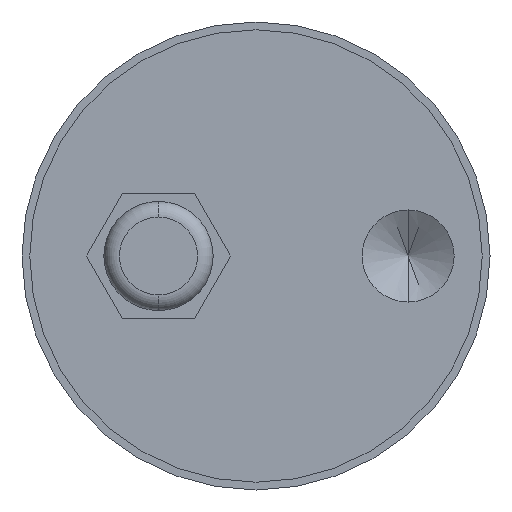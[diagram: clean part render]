
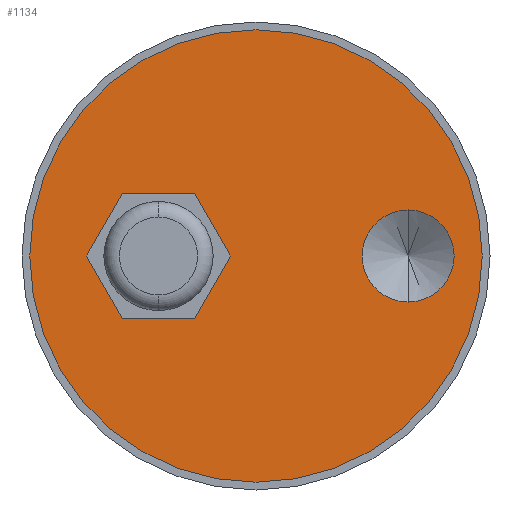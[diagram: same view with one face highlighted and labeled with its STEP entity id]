
A CAD part, front view. The second image highlights one B-rep face of the part: STEP entity #1134.
In plain terms, the highlighted planar face has unit normal (0, -1, 0).
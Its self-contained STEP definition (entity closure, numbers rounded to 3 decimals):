
#1 = CARTESIAN_POINT ( 'NONE',  ( -17.119, 0., -8. ) ) ;
#3 = DIRECTION ( 'NONE',  ( 0., 0., 1. ) ) ;
#4 = AXIS2_PLACEMENT_3D ( 'NONE', #361, #539, #88 ) ;
#7 = CARTESIAN_POINT ( 'NONE',  ( -21.738, 0., 0. ) ) ;
#15 = CARTESIAN_POINT ( 'NONE',  ( -21.738, 0., 0. ) ) ;
#27 = CARTESIAN_POINT ( 'NONE',  ( 0., 0., 29. ) ) ;
#34 = CARTESIAN_POINT ( 'NONE',  ( -17.119, 0., -8. ) ) ;
#82 = CARTESIAN_POINT ( 'NONE',  ( -7.881, 0., -8. ) ) ;
#88 = DIRECTION ( 'NONE',  ( 0., 0., 1. ) ) ;
#104 = PLANE ( 'NONE',  #871 ) ;
#115 = DIRECTION ( 'NONE',  ( 0.5, 0., -0.866 ) ) ;
#143 = VERTEX_POINT ( 'NONE', #690 ) ;
#145 = CARTESIAN_POINT ( 'NONE',  ( 0., 0., 0. ) ) ;
#154 = CARTESIAN_POINT ( 'NONE',  ( -3.262, 0., 0. ) ) ;
#163 = CARTESIAN_POINT ( 'NONE',  ( 19.5, 0., 0. ) ) ;
#177 = ORIENTED_EDGE ( 'NONE', *, *, #333, .F. ) ;
#205 = LINE ( 'NONE', #413, #865 ) ;
#213 = VERTEX_POINT ( 'NONE', #27 ) ;
#230 = VECTOR ( 'NONE', #691, 1000. ) ;
#242 = DIRECTION ( 'NONE',  ( 0., 0., -1. ) ) ;
#246 = DIRECTION ( 'NONE',  ( 0., -1., 0. ) ) ;
#260 = EDGE_CURVE ( 'NONE', #143, #1124, #645, .T. ) ;
#273 = CARTESIAN_POINT ( 'NONE',  ( -17.119, 0., 8. ) ) ;
#290 = ORIENTED_EDGE ( 'NONE', *, *, #568, .F. ) ;
#292 = LINE ( 'NONE', #273, #878 ) ;
#300 = ORIENTED_EDGE ( 'NONE', *, *, #1067, .F. ) ;
#304 = VECTOR ( 'NONE', #1096, 1000. ) ;
#305 = LINE ( 'NONE', #1, #365 ) ;
#315 = EDGE_LOOP ( 'NONE', ( #575, #493 ) ) ;
#333 = EDGE_CURVE ( 'NONE', #489, #1136, #205, .T. ) ;
#346 = DIRECTION ( 'NONE',  ( 0., 0., -1. ) ) ;
#361 = CARTESIAN_POINT ( 'NONE',  ( 0., 0., 0. ) ) ;
#362 = ORIENTED_EDGE ( 'NONE', *, *, #686, .F. ) ;
#365 = VECTOR ( 'NONE', #373, 1000. ) ;
#366 = AXIS2_PLACEMENT_3D ( 'NONE', #163, #511, #242 ) ;
#371 = DIRECTION ( 'NONE',  ( 0., 1., 0. ) ) ;
#373 = DIRECTION ( 'NONE',  ( 1., 0., 0. ) ) ;
#381 = EDGE_CURVE ( 'NONE', #844, #213, #450, .T. ) ;
#413 = CARTESIAN_POINT ( 'NONE',  ( -7.881, 0., 8. ) ) ;
#422 = DIRECTION ( 'NONE',  ( -1., 0., 0. ) ) ;
#424 = CARTESIAN_POINT ( 'NONE',  ( 19.5, 0., 0. ) ) ;
#446 = ORIENTED_EDGE ( 'NONE', *, *, #875, .F. ) ;
#450 = CIRCLE ( 'NONE', #4, 29. ) ;
#465 = LINE ( 'NONE', #15, #1078 ) ;
#489 = VERTEX_POINT ( 'NONE', #928 ) ;
#493 = ORIENTED_EDGE ( 'NONE', *, *, #260, .F. ) ;
#511 = DIRECTION ( 'NONE',  ( 0., -1., 0. ) ) ;
#539 = DIRECTION ( 'NONE',  ( 0., 1., 0. ) ) ;
#558 = CARTESIAN_POINT ( 'NONE',  ( 19.5, 0., -5.9 ) ) ;
#568 = EDGE_CURVE ( 'NONE', #798, #1073, #305, .T. ) ;
#575 = ORIENTED_EDGE ( 'NONE', *, *, #900, .F. ) ;
#597 = CARTESIAN_POINT ( 'NONE',  ( 0., 0., -29. ) ) ;
#619 = VERTEX_POINT ( 'NONE', #7 ) ;
#625 = LINE ( 'NONE', #1208, #304 ) ;
#645 = CIRCLE ( 'NONE', #366, 5.9 ) ;
#647 = DIRECTION ( 'NONE',  ( -0.5, 0., -0.866 ) ) ;
#652 = ORIENTED_EDGE ( 'NONE', *, *, #1205, .F. ) ;
#685 = CIRCLE ( 'NONE', #1161, 29. ) ;
#686 = EDGE_CURVE ( 'NONE', #619, #798, #465, .T. ) ;
#690 = CARTESIAN_POINT ( 'NONE',  ( 19.5, 0., 5.9 ) ) ;
#691 = DIRECTION ( 'NONE',  ( 0.5, 0., 0.866 ) ) ;
#707 = DIRECTION ( 'NONE',  ( 0., 0., 1. ) ) ;
#715 = CIRCLE ( 'NONE', #955, 5.9 ) ;
#734 = LINE ( 'NONE', #973, #230 ) ;
#783 = ORIENTED_EDGE ( 'NONE', *, *, #923, .F. ) ;
#798 = VERTEX_POINT ( 'NONE', #34 ) ;
#817 = DIRECTION ( 'NONE',  ( 0., 1., 0. ) ) ;
#821 = FACE_BOUND ( 'NONE', #981, .T. ) ;
#844 = VERTEX_POINT ( 'NONE', #597 ) ;
#865 = VECTOR ( 'NONE', #422, 1000. ) ;
#871 = AXIS2_PLACEMENT_3D ( 'NONE', #1135, #371, #3 ) ;
#875 = EDGE_CURVE ( 'NONE', #213, #844, #685, .T. ) ;
#878 = VECTOR ( 'NONE', #647, 1000. ) ;
#900 = EDGE_CURVE ( 'NONE', #1124, #143, #715, .T. ) ;
#912 = FACE_OUTER_BOUND ( 'NONE', #1179, .T. ) ;
#923 = EDGE_CURVE ( 'NONE', #929, #489, #625, .T. ) ;
#928 = CARTESIAN_POINT ( 'NONE',  ( -7.881, 0., 8. ) ) ;
#929 = VERTEX_POINT ( 'NONE', #154 ) ;
#946 = CARTESIAN_POINT ( 'NONE',  ( -17.119, 0., 8. ) ) ;
#955 = AXIS2_PLACEMENT_3D ( 'NONE', #424, #246, #346 ) ;
#973 = CARTESIAN_POINT ( 'NONE',  ( -7.881, 0., -8. ) ) ;
#981 = EDGE_LOOP ( 'NONE', ( #652, #290, #362, #300, #177, #783 ) ) ;
#1067 = EDGE_CURVE ( 'NONE', #1136, #619, #292, .T. ) ;
#1073 = VERTEX_POINT ( 'NONE', #82 ) ;
#1078 = VECTOR ( 'NONE', #115, 1000. ) ;
#1096 = DIRECTION ( 'NONE',  ( -0.5, 0., 0.866 ) ) ;
#1124 = VERTEX_POINT ( 'NONE', #558 ) ;
#1134 = ADVANCED_FACE ( 'NONE', ( #912, #1141, #821 ), #104, .F. ) ;
#1135 = CARTESIAN_POINT ( 'NONE',  ( 0., 0., 0. ) ) ;
#1136 = VERTEX_POINT ( 'NONE', #946 ) ;
#1141 = FACE_BOUND ( 'NONE', #315, .T. ) ;
#1161 = AXIS2_PLACEMENT_3D ( 'NONE', #145, #817, #707 ) ;
#1164 = ORIENTED_EDGE ( 'NONE', *, *, #381, .F. ) ;
#1179 = EDGE_LOOP ( 'NONE', ( #1164, #446 ) ) ;
#1205 = EDGE_CURVE ( 'NONE', #1073, #929, #734, .T. ) ;
#1208 = CARTESIAN_POINT ( 'NONE',  ( -3.262, 0., 0. ) ) ;
